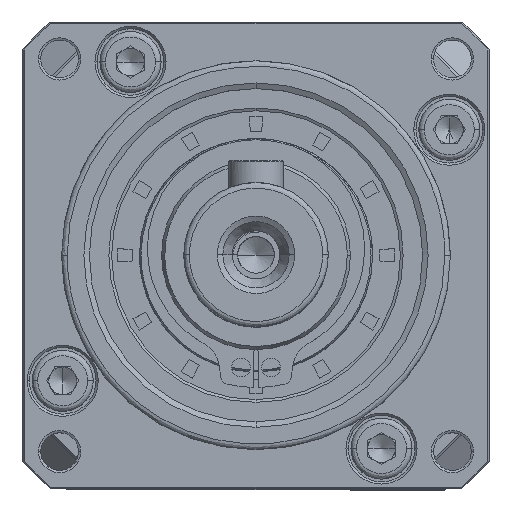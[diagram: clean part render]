
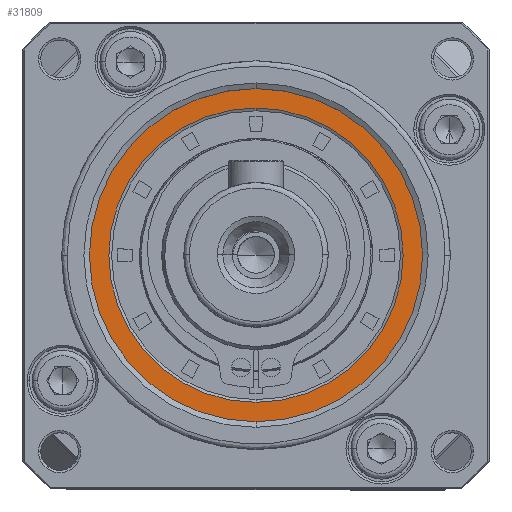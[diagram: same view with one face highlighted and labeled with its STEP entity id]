
A CAD part, top view. The second image highlights one B-rep face of the part: STEP entity #31809.
In plain terms, the highlighted planar face has unit normal (0, 0, 1).
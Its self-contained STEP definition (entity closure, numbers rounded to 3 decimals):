
#2017 = CARTESIAN_POINT ( 'NONE',  ( 25.669, 19.243, 82.246 ) ) ;
#2456 = DIRECTION ( 'NONE',  ( 0., 0., -1. ) ) ;
#2921 = ORIENTED_EDGE ( 'NONE', *, *, #74502, .T. ) ;
#4141 = CIRCLE ( 'NONE', #63913, 15. ) ;
#5035 = FACE_OUTER_BOUND ( 'NONE', #86860, .T. ) ;
#9561 = DIRECTION ( 'NONE',  ( 0., -1., 0. ) ) ;
#13979 = CIRCLE ( 'NONE', #51144, 15. ) ;
#18782 = EDGE_CURVE ( 'NONE', #96676, #96096, #84878, .T. ) ;
#24362 = CARTESIAN_POINT ( 'NONE',  ( 25.669, 19.243, 82.246 ) ) ;
#27305 = ORIENTED_EDGE ( 'NONE', *, *, #85541, .T. ) ;
#29343 = CARTESIAN_POINT ( 'NONE',  ( 25.669, 19.243, 82.246 ) ) ;
#30555 = CIRCLE ( 'NONE', #70491, 13.25 ) ;
#31809 = ADVANCED_FACE ( 'NONE', ( #5035, #84700 ), #44177, .T. ) ;
#31881 = DIRECTION ( 'NONE',  ( 1., 0., 0. ) ) ;
#34160 = CARTESIAN_POINT ( 'NONE',  ( 10.669, 19.243, 82.246 ) ) ;
#36925 = DIRECTION ( 'NONE',  ( 1., 0., 0. ) ) ;
#38810 = DIRECTION ( 'NONE',  ( 0., 0., 1. ) ) ;
#43849 = CARTESIAN_POINT ( 'NONE',  ( 25.669, 5.993, 82.246 ) ) ;
#44177 = PLANE ( 'NONE',  #85740 ) ;
#47348 = CARTESIAN_POINT ( 'NONE',  ( 25.669, 19.243, 82.246 ) ) ;
#49768 = CARTESIAN_POINT ( 'NONE',  ( 40.669, 19.243, 82.246 ) ) ;
#51144 = AXIS2_PLACEMENT_3D ( 'NONE', #24362, #76801, #31881 ) ;
#54416 = DIRECTION ( 'NONE',  ( 0., 0., -1. ) ) ;
#54876 = DIRECTION ( 'NONE',  ( 0., -1., 0. ) ) ;
#56750 = CARTESIAN_POINT ( 'NONE',  ( 25.669, 32.493, 82.246 ) ) ;
#63913 = AXIS2_PLACEMENT_3D ( 'NONE', #83700, #38810, #91231 ) ;
#65537 = EDGE_CURVE ( 'NONE', #88993, #88240, #4141, .T. ) ;
#70491 = AXIS2_PLACEMENT_3D ( 'NONE', #47348, #2456, #54876 ) ;
#74502 = EDGE_CURVE ( 'NONE', #96096, #96676, #30555, .T. ) ;
#76801 = DIRECTION ( 'NONE',  ( 0., 0., 1. ) ) ;
#81062 = ORIENTED_EDGE ( 'NONE', *, *, #65537, .T. ) ;
#81833 = DIRECTION ( 'NONE',  ( 0., 0., 1. ) ) ;
#83700 = CARTESIAN_POINT ( 'NONE',  ( 25.669, 19.243, 82.246 ) ) ;
#84700 = FACE_BOUND ( 'NONE', #91517, .T. ) ;
#84878 = CIRCLE ( 'NONE', #96591, 13.25 ) ;
#85541 = EDGE_CURVE ( 'NONE', #88240, #88993, #13979, .T. ) ;
#85740 = AXIS2_PLACEMENT_3D ( 'NONE', #29343, #81833, #36925 ) ;
#86860 = EDGE_LOOP ( 'NONE', ( #81062, #27305 ) ) ;
#88240 = VERTEX_POINT ( 'NONE', #34160 ) ;
#88993 = VERTEX_POINT ( 'NONE', #49768 ) ;
#91231 = DIRECTION ( 'NONE',  ( 1., 0., 0. ) ) ;
#91517 = EDGE_LOOP ( 'NONE', ( #91937, #2921 ) ) ;
#91937 = ORIENTED_EDGE ( 'NONE', *, *, #18782, .T. ) ;
#96096 = VERTEX_POINT ( 'NONE', #56750 ) ;
#96591 = AXIS2_PLACEMENT_3D ( 'NONE', #2017, #54416, #9561 ) ;
#96676 = VERTEX_POINT ( 'NONE', #43849 ) ;
